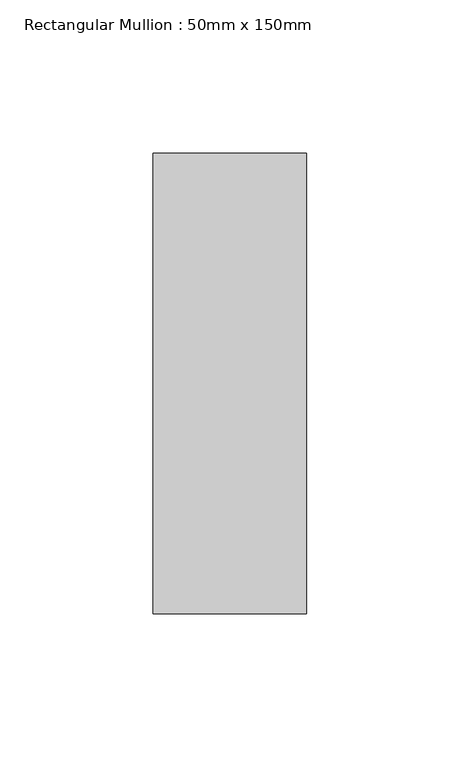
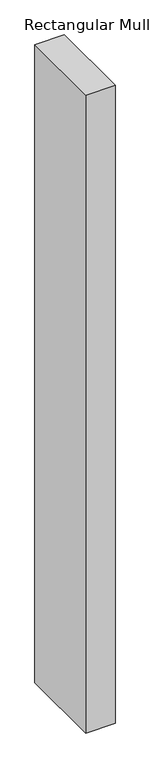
"""IFC4 building model written with IfcOpenShell, lengths in millimetres: member geometry, Rectangular Mullion : 50mm x 150mm."""

from ifc_helpers import new_model, si_unit, frame, origin, place, context, project, spatial, polyline, outline, extrude, source, transform, mapped, element, save


def rectangular_mullion_50mm_x_150mm_163d5e45(model_context):
    return source(origin(), model_context, "Body", "SweptSolid", [
        extrude(outline(polyline([(25.0, 75.0), (25.0, -75.0), (-25.0, -75.0), (-25.0, 75.0), (25.0, 75.0)])), frame((0.0, 0.0, -1150.0), z_axis=(0.0, 0.0, 1.0), x_axis=(1.0, 0.0, 0.0)), (0.0, 0.0, 1.0), 1150.0),
    ])


if __name__ == "__main__":
    model = new_model("IFC4")
    model_context = context("Model", 3, world=origin())
    ifc_project = project(units=[si_unit("LENGTHUNIT", "METRE", prefix="MILLI")], contexts=[model_context])
    site = spatial("IfcSite", under=ifc_project)
    building = spatial("IfcBuilding", under=site)
    placement = place(None, origin())
    rectangular_mullion_50mm_x_150mm_shape = rectangular_mullion_50mm_x_150mm_163d5e45(model_context)
    element("IfcMember", 1, ObjectType="Rectangular Mullion : 50mm x 150mm", at=placement, inside=building, context=model_context, shape_type="MappedRepresentation", body=[
        mapped(rectangular_mullion_50mm_x_150mm_shape, transform((0.0, 0.0, 0.0), x_axis=(1.0, 0.0, 0.0), y_axis=(0.0, 1.0, 0.0), z_axis=(0.0, 0.0, 1.0))),
    ])
    save(model, "model.ifc")
